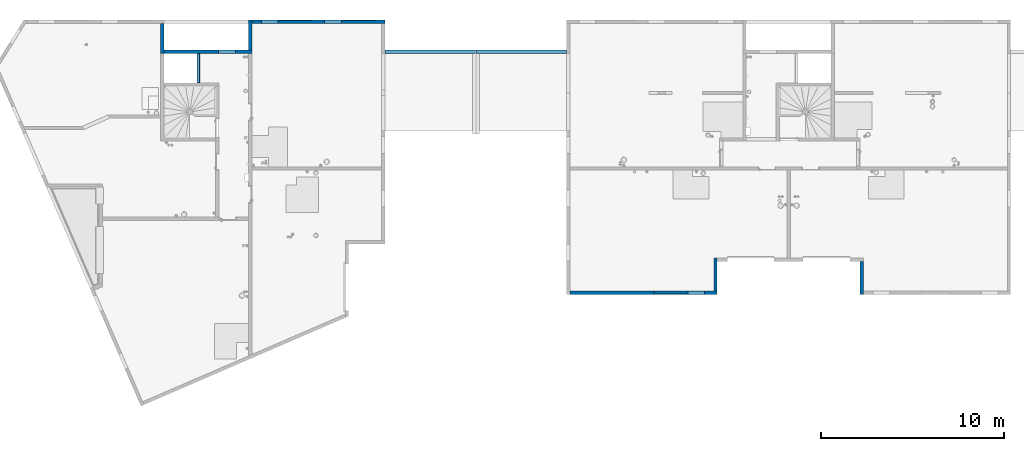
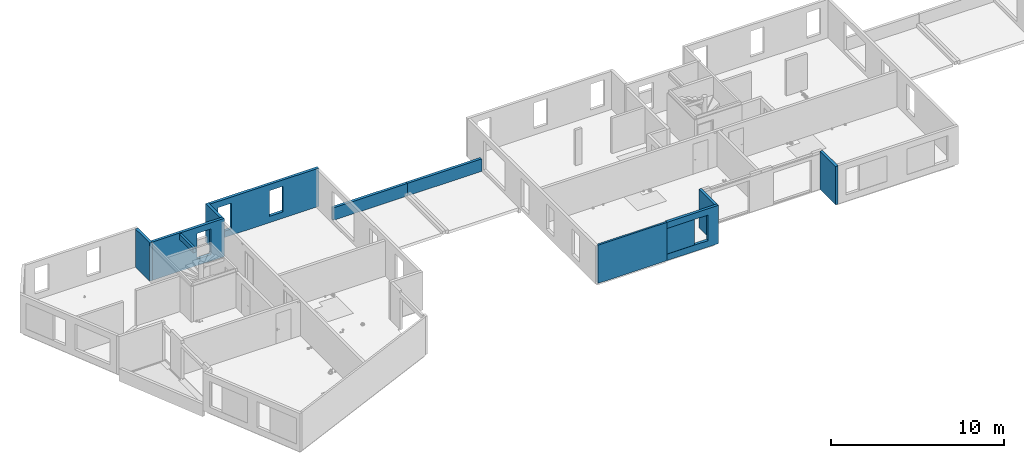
# One storey, part 6 of 24: 11 walls, 12 openings.
"""IFC2X3 building model written with IfcOpenShell, lengths in centimetres."""

from ifc_helpers import new_model, entity, si_unit, converted_unit, derived_unit, direction, frame, frame_2d, origin, place, context, subcontext, project, spatial, polyline, rectangle, extrude, clip, bounded_halfspace, material, layer, layer_set, layer_usage, type_object, element, save


model = new_model("IFC2X3")

# Units and contexts
model_context = context("Model", 3, precision=0.001, world=origin(), true_north=direction((6.12303176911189e-17, 1.0)))
body_context = subcontext(model_context, "Body", "Model", "MODEL_VIEW")
ifc_project = project(units=[si_unit("LENGTHUNIT", "METRE", prefix="CENTI"), si_unit("AREAUNIT", "SQUARE_METRE"), si_unit("VOLUMEUNIT", "CUBIC_METRE"), converted_unit("PLANEANGLEUNIT", "DEGREE", entity("IfcRatioMeasure", 0.0174532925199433), si_unit("PLANEANGLEUNIT", "RADIAN"), dimensions=[0, 0, 0, 0, 0, 0, 0]), si_unit("MASSUNIT", "GRAM", prefix="KILO"), derived_unit("MASSDENSITYUNIT", [(si_unit("MASSUNIT", "GRAM", prefix="KILO"), 1), (si_unit("LENGTHUNIT", "METRE"), -3)]), si_unit("TIMEUNIT", "SECOND"), si_unit("FREQUENCYUNIT", "HERTZ"), si_unit("THERMODYNAMICTEMPERATUREUNIT", "DEGREE_CELSIUS"), derived_unit("THERMALTRANSMITTANCEUNIT", [(si_unit("MASSUNIT", "GRAM", prefix="KILO"), 1), (si_unit("THERMODYNAMICTEMPERATUREUNIT", "KELVIN"), -1), (si_unit("TIMEUNIT", "SECOND"), -3)]), derived_unit("VOLUMETRICFLOWRATEUNIT", [(si_unit("LENGTHUNIT", "METRE"), 3), (si_unit("TIMEUNIT", "SECOND"), -1)]), si_unit("ELECTRICCURRENTUNIT", "AMPERE"), si_unit("ELECTRICVOLTAGEUNIT", "VOLT"), si_unit("POWERUNIT", "WATT"), si_unit("FORCEUNIT", "NEWTON"), si_unit("ILLUMINANCEUNIT", "LUX"), si_unit("LUMINOUSFLUXUNIT", "LUMEN"), si_unit("LUMINOUSINTENSITYUNIT", "CANDELA"), derived_unit("USERDEFINED", [(si_unit("MASSUNIT", "GRAM", prefix="KILO"), -1), (si_unit("LENGTHUNIT", "METRE"), -2), (si_unit("TIMEUNIT", "SECOND"), 3), (si_unit("LUMINOUSFLUXUNIT", "LUMEN"), 1)]), derived_unit("LINEARVELOCITYUNIT", [(si_unit("LENGTHUNIT", "METRE"), 1), (si_unit("TIMEUNIT", "SECOND"), -1)]), si_unit("PRESSUREUNIT", "PASCAL"), derived_unit("USERDEFINED", [(si_unit("LENGTHUNIT", "METRE"), -2), (si_unit("MASSUNIT", "GRAM", prefix="KILO"), 1), (si_unit("TIMEUNIT", "SECOND"), -2)])], contexts=[model_context])

# Site, building, storey
site_placement = place(None, origin())
site = spatial("IfcSite", under=ifc_project, at=site_placement, Name="Default", CompositionType="ELEMENT")
building_placement = place(site_placement, origin())
building = spatial("IfcBuilding", under=site, at=building_placement, Name="CAGE 03", CompositionType="ELEMENT")
storey_placement = place(building_placement, frame((0.0, 0.0, 880.0)))
storey = spatial("IfcBuildingStorey", under=building, at=storey_placement, Name="R+3", CompositionType="ELEMENT", Elevation=880.0)

# Wall
ifc_material_1 = material(Name="Béton, C25/30")
ifc_layer_1 = layer(ifc_material_1, 18.0)
ifc_layer_set_1 = layer_set([ifc_layer_1], Name="Mur de base:Voile BA 18")
ifc_layer_usage_1 = layer_usage(ifc_layer_set_1, "AXIS2", "NEGATIVE", 9.0)
wall_type_1 = type_object("IfcWallType", Name="Mur de base:Voile BA 18", PredefinedType="STANDARD", material=ifc_layer_set_1)
wall_1_placement = place(storey_placement, frame((3663.36582014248, 5275.66066607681, 0.0), z_axis=(0.0, 0.0, 1.0), x_axis=(0.0, -1.0, 0.0)))
element("IfcWallStandardCase", 1, at=wall_1_placement, inside=storey, type_object=wall_type_1, material=ifc_layer_usage_1, Name="Mur de base:Voile BA 18", ObjectType="Mur de base:Voile BA 18", context=body_context, shape_type="SweptSolid", body=[
    extrude(rectangle(XDim=165.0, YDim=18.0000000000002, at=frame_2d((82.4999999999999, 7.54951656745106e-14), x_axis=(-1.0, 0.0))), origin(), (0.0, 0.0, 1.0), 270.0),
])

# Wall, openings
ifc_layer_usage_2 = layer_usage(ifc_layer_set_1, "AXIS2", "NEGATIVE", 9.0)
wall_2_placement = place(storey_placement, frame((3672.36582014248, 5119.66066607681, 0.0)))
wall_2 = element("IfcWallStandardCase", 2, at=wall_2_placement, inside=storey, type_object=wall_type_1, material=ifc_layer_usage_2, Name="Mur de base:Voile BA 18", ObjectType="Mur de base:Voile BA 18", context=body_context, shape_type="SweptSolid", body=[
    extrude(rectangle(XDim=479.999999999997, YDim=17.9999999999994, at=frame_2d((239.999999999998, 1.87405646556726e-13), x_axis=(-1.0, 0.0))), origin(), (0.0, 0.0, 1.0), 270.0),
])
opening_1_placement = place(wall_2_placement, origin())
element("IfcOpeningElement", 3, at=opening_1_placement, cuts=wall_2, Name="Mur de base:Voile BA 18", ObjectType="Opening", context=body_context, shape_type="SweptSolid", body=[
    extrude(rectangle(XDim=227.0, YDim=17.9999999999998, at=frame_2d((2.16715534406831e-13, 4.9737991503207e-14), x_axis=(0.0, 1.0))), frame((189.0, -169.0, 113.5), z_axis=(0.0, 1.0, 0.0), x_axis=(1.0, 0.0, 0.0)), (0.0, 0.0, 1.0), 160.0),
])
opening_2_placement = place(wall_2_placement, frame((-3672.36582014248, -5119.66066607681, 0.0)))
element("IfcOpeningElement", 4, at=opening_2_placement, cuts=wall_2, Name="Mur de base:Voile BA 18", ObjectType="Opening", context=body_context, shape_type="SweptSolid", body=[
    extrude(rectangle(XDim=181.0, YDim=95.0000000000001, at=frame_2d((0.0, -4.33431068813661e-13), x_axis=(1.0, 0.0))), frame((4016.86582014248, 4958.26066607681, 135.5), z_axis=(0.0, 1.0, 0.0), x_axis=(0.0, 0.0, 1.0)), (0.0, 0.0, 1.0), 304.8),
])

# Walls
ifc_layer_usage_3 = layer_usage(ifc_layer_set_1, "AXIS2", "POSITIVE", -9.0)
wall_3_placement = place(storey_placement, frame((4143.36582014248, 5293.66066607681, 0.0), z_axis=(0.0, 0.0, 1.0), x_axis=(0.0, -1.0, 0.0)))
element("IfcWallStandardCase", 5, at=wall_3_placement, inside=storey, type_object=wall_type_1, material=ifc_layer_usage_3, Name="Mur de base:Voile BA 18", ObjectType="Mur de base:Voile BA 18", context=body_context, shape_type="SweptSolid", body=[
    extrude(rectangle(XDim=165.000000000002, YDim=17.9999999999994, at=frame_2d((82.5000000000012, -9.76996261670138e-15), x_axis=(-1.0, 0.0))), origin(), (0.0, 0.0, 1.0), 270.0),
])
ifc_layer_usage_4 = layer_usage(ifc_layer_set_1, "AXIS2", "POSITIVE", -9.0)
wall_4_placement = place(storey_placement, frame((6682.36582014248, 3814.6606660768, 0.0), z_axis=(0.0, 0.0, 1.0), x_axis=(0.0, 1.0, 0.0)))
element("IfcWallStandardCase", 6, at=wall_4_placement, inside=storey, type_object=wall_type_1, material=ifc_layer_usage_4, Name="Mur de base:Voile BA 18", ObjectType="Mur de base:Voile BA 18", context=body_context, shape_type="SweptSolid", body=[
    extrude(rectangle(XDim=179.999999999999, YDim=17.9999999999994, at=frame_2d((89.9999999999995, -1.4299672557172e-13), x_axis=(-1.0, 0.0))), origin(), (0.0, 0.0, 1.0), 270.0),
])
ifc_layer_usage_5 = layer_usage(ifc_layer_set_1, "AXIS2", "POSITIVE", -9.0)
wall_5_placement = place(storey_placement, frame((7480.36582014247, 3976.6606660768, 0.0), z_axis=(0.0, 0.0, 1.0), x_axis=(0.0, -1.0, 0.0)))
element("IfcWallStandardCase", 7, at=wall_5_placement, inside=storey, type_object=wall_type_1, material=ifc_layer_usage_5, Name="Mur de base:Voile BA 18", ObjectType="Mur de base:Voile BA 18", context=body_context, shape_type="SweptSolid", body=[
    extrude(rectangle(XDim=179.999999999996, YDim=17.9999999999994, at=frame_2d((89.9999999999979, -7.19424519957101e-14), x_axis=(-1.0, 0.0))), origin(), (0.0, 0.0, 1.0), 270.0),
])
ifc_layer_usage_6 = layer_usage(ifc_layer_set_1, "AXIS2", "POSITIVE", -9.0)
wall_6_placement = place(storey_placement, frame((5870.36582014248, 5119.66066607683, 0.0), z_axis=(0.0, 0.0, 1.0), x_axis=(-1.0, 0.0, 0.0)))
element("IfcWallStandardCase", 8, at=wall_6_placement, inside=storey, type_object=wall_type_1, material=ifc_layer_usage_6, Name="Mur de base:Voile BA 18", ObjectType="Mur de base:Voile BA 18", context=body_context, shape_type="SweptSolid", body=[
    extrude(rectangle(XDim=494.999999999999, YDim=17.9999999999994, at=frame_2d((247.5, -7.01660951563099e-14), x_axis=(-1.0, 0.0))), origin(), (0.0, 0.0, 1.0), 87.9999999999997),
])

# Wall, openings
ifc_layer_usage_7 = layer_usage(ifc_layer_set_1, "AXIS2", "POSITIVE", -9.0)
wall_7_placement = place(storey_placement, frame((4878.36582014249, 5284.66066607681, 0.0), z_axis=(0.0, 0.0, 1.0), x_axis=(-1.0, 0.0, 0.0)))
wall_7 = element("IfcWallStandardCase", 9, at=wall_7_placement, inside=storey, type_object=wall_type_1, material=ifc_layer_usage_7, Name="Mur de base:Voile BA 18", ObjectType="Mur de base:Voile BA 18", context=body_context, shape_type="SweptSolid", body=[
    extrude(rectangle(XDim=726.000000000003, YDim=17.9999999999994, at=frame_2d((363.000000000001, -2.1582735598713e-13), x_axis=(-1.0, 0.0))), origin(), (0.0, 0.0, 1.0), 270.0),
])
opening_3_placement = place(wall_7_placement, origin())
element("IfcOpeningElement", 10, at=opening_3_placement, cuts=wall_7, Name="Mur de base:Voile BA 18", ObjectType="Recess", context=body_context, shape_type="SweptSolid", body=[
    extrude(rectangle(XDim=181.0, YDim=184.0, at=frame_2d((0.0, -5.6843418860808e-14), x_axis=(0.0, 1.0))), frame((491.0, -9.0, 135.5), z_axis=(0.0, 1.0, 0.0), x_axis=(1.0, 0.0, 0.0)), (0.0, 0.0, 1.0), 1.99999999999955),
])
opening_4_placement = place(wall_7_placement, origin())
element("IfcOpeningElement", 11, at=opening_4_placement, cuts=wall_7, Name="Mur de base:Voile BA 18", ObjectType="Recess", context=body_context, shape_type="SweptSolid", body=[
    extrude(rectangle(XDim=181.0, YDim=184.0, at=frame_2d((0.0, -5.6843418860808e-14), x_axis=(0.0, 1.0))), frame((146.0, -9.0, 135.499999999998), z_axis=(0.0, 1.0, 0.0), x_axis=(1.0, 0.0, 0.0)), (0.0, 0.0, 1.0), 1.99999999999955),
])
opening_5_placement = place(wall_7_placement, frame((4878.36582014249, 5284.66066607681, 0.0), z_axis=(0.0, 0.0, 1.0), x_axis=(-1.0, 0.0, 0.0)))
element("IfcOpeningElement", 12, at=opening_5_placement, cuts=wall_7, Name="Mur de base:Voile BA 18", ObjectType="Opening", context=body_context, shape_type="SweptSolid", body=[
    extrude(rectangle(XDim=181.0, YDim=91.0000000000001, at=frame_2d((0.0, 0.0), x_axis=(0.0, 1.0))), frame((4249.86582014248, 5428.06066607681, 135.5), z_axis=(0.0, -1.0, 0.0), x_axis=(1.0, 0.0, 0.0)), (0.0, 0.0, 1.0), 304.8),
])
opening_6_placement = place(wall_7_placement, frame((4878.36582014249, 5284.66066607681, 0.0), z_axis=(0.0, 0.0, 1.0), x_axis=(-1.0, 0.0, 0.0)))
element("IfcOpeningElement", 13, at=opening_6_placement, cuts=wall_7, Name="Mur de base:Voile BA 18", ObjectType="Opening", context=body_context, shape_type="SweptSolid", body=[
    extrude(rectangle(XDim=181.0, YDim=91.0000000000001, at=frame_2d((0.0, 0.0), x_axis=(0.0, 1.0))), frame((4594.86582014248, 5428.06066607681, 135.5), z_axis=(0.0, -1.0, 0.0), x_axis=(1.0, 0.0, 0.0)), (0.0, 0.0, 1.0), 304.8),
])

# Wall, opening
ifc_layer_usage_8 = layer_usage(ifc_layer_set_1, "AXIS2", "POSITIVE", -9.0)
wall_8_placement = place(storey_placement, frame((3861.36582014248, 5110.66066607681, 227.0), z_axis=(0.0, 0.0, 1.0), x_axis=(0.0, -1.0, 0.0)))
wall_8 = element("IfcWallStandardCase", 14, at=wall_8_placement, inside=storey, type_object=wall_type_1, material=ifc_layer_usage_8, Name="Mur de base:Voile BA 18", ObjectType="Mur de base:Voile BA 18", context=body_context, shape_type="Clipping", body=[
    clip(clip(extrude(rectangle(XDim=159.999999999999, YDim=18.0000000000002, at=frame_2d((79.9999999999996, -8.08242361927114e-14), x_axis=(-1.0, 0.0))), origin(), (0.0, 0.0, 1.0), 36.0), bounded_halfspace(frame((0.0, 6.0, 23.0), z_axis=(0.0, 0.0, -1.0), x_axis=(1.0, 0.0, 0.0)), True, frame((0.0, 6.0, 23.0), z_axis=(0.0, 0.0, -1.0), x_axis=(1.0, 0.0, 0.0)), polyline([(0.0, 0.0), (0.0, -3.0), (160.0, -3.0), (160.0, 0.0), (0.0, 0.0)]))), bounded_halfspace(frame((160.0, 6.0, 23.0), z_axis=(0.0, -1.0, 0.0), x_axis=(0.0, 0.0, 1.0)), True, frame((160.0, 6.0, 23.0), z_axis=(0.0, -1.0, 0.0), x_axis=(0.0, 0.0, 1.0)), polyline([(0.0, 0.0), (13.0, 0.0), (13.0, 160.0), (0.0, 160.0), (0.0, 0.0)]))),
])
opening_7_placement = place(wall_8_placement, frame((5110.66066607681, -3861.36582014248, -227.0), z_axis=(0.0, 0.0, 1.0), x_axis=(0.0, 1.0, 0.0)))
element("IfcOpeningElement", 15, at=opening_7_placement, cuts=wall_8, Name="Mur de base:Voile BA 18", ObjectType="Opening", context=body_context, shape_type="SweptSolid", body=[
    extrude(rectangle(XDim=227.0, YDim=160.0, at=frame_2d((0.0, 1.63424829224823e-13), x_axis=(0.0, 1.0))), frame((3717.96582014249, 5030.66066607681, 113.5), z_axis=(1.0, 0.0, 0.0), x_axis=(0.0, 1.0, 0.0)), (0.0, 0.0, 1.0), 304.8),
])

# Wall
ifc_layer_usage_9 = layer_usage(ifc_layer_set_1, "AXIS2", "POSITIVE", -9.0)
wall_9_placement = place(storey_placement, frame((5373.36582014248, 5119.66066607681, 0.0), z_axis=(0.0, 0.0, 1.0), x_axis=(-1.0, 0.0, 0.0)))
element("IfcWallStandardCase", 16, at=wall_9_placement, inside=storey, type_object=wall_type_1, material=ifc_layer_usage_9, Name="Mur de base:Voile BA 18", ObjectType="Mur de base:Voile BA 18", context=body_context, shape_type="SweptSolid", body=[
    extrude(rectangle(XDim=494.999999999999, YDim=17.9999999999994, at=frame_2d((247.5, -3.01980662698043e-14), x_axis=(-1.0, 0.0))), origin(), (0.0, 0.0, 1.0), 87.9999999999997),
])

# Wall, openings
ifc_layer_usage_10 = layer_usage(ifc_layer_set_1, "AXIS2", "POSITIVE", -9.0)
wall_10_placement = place(storey_placement, frame((6347.36582014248, 3805.6606660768, 0.0)))
wall_10 = element("IfcWallStandardCase", 17, at=wall_10_placement, inside=storey, type_object=wall_type_1, material=ifc_layer_usage_10, Name="Mur de base:Voile BA 18", ObjectType="Mur de base:Voile BA 18", context=body_context, shape_type="SweptSolid", body=[
    extrude(rectangle(XDim=344.0, YDim=18.0000000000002, at=frame_2d((172.0, -1.04805053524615e-13), x_axis=(-1.0, 0.0))), origin(), (0.0, 0.0, 1.0), 270.0),
])
opening_8_placement = place(wall_10_placement, origin())
element("IfcOpeningElement", 18, at=opening_8_placement, cuts=wall_10, Name="Mur de base:Voile BA 18", ObjectType="Recess", context=body_context, shape_type="SweptSolid", body=[
    extrude(rectangle(XDim=181.0, YDim=184.0, at=frame_2d((-1.06581410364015e-13, 0.0), x_axis=(1.0, 0.0))), frame((92.0, -9.0, 135.5), z_axis=(0.0, 1.0, 0.0), x_axis=(0.0, 0.0, -1.0)), (0.0, 0.0, 1.0), 1.99999999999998),
])
opening_9_placement = place(wall_10_placement, origin())
element("IfcOpeningElement", 19, at=opening_9_placement, cuts=wall_10, Name="Mur de base:Voile BA 18", ObjectType="Recess", context=body_context, shape_type="SweptSolid", body=[
    extrude(rectangle(XDim=181.0, YDim=184.0, at=frame_2d((-1.06581410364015e-13, 0.0), x_axis=(1.0, 0.0))), frame((1376.0, -9.0, 135.5), z_axis=(0.0, 1.0, 0.0), x_axis=(0.0, 0.0, -1.0)), (0.0, 0.0, 1.0), 1.99999999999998),
])
opening_10_placement = place(wall_10_placement, origin())
element("IfcOpeningElement", 20, at=opening_10_placement, cuts=wall_10, Name="Mur de base:Voile BA 18", ObjectType="Recess", context=body_context, shape_type="SweptSolid", body=[
    extrude(rectangle(XDim=181.0, YDim=184.0, at=frame_2d((-1.06581410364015e-13, 0.0), x_axis=(1.0, 0.0))), frame((1693.0, -9.0, 135.5), z_axis=(0.0, 1.0, 0.0), x_axis=(0.0, 0.0, -1.0)), (0.0, 0.0, 1.0), 1.99999999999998),
])
opening_11_placement = place(wall_10_placement, frame((-6347.36582014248, -3805.6606660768, 0.0)))
element("IfcOpeningElement", 21, at=opening_11_placement, cuts=wall_10, Name="Mur de base:Voile BA 18", ObjectType="Opening", context=body_context, shape_type="SweptSolid", body=[
    extrude(rectangle(XDim=181.0, YDim=91.0000000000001, at=frame_2d((0.0, 0.0), x_axis=(0.0, 1.0))), frame((6576.86582014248, 3644.2606660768, 135.5), z_axis=(0.0, 1.0, 0.0), x_axis=(-1.0, 0.0, 0.0)), (0.0, 0.0, 1.0), 304.8),
])

# Wall, opening
ifc_material_2 = material(Name="Béton, panneaux préfa 30/37")
ifc_layer_2 = layer(ifc_material_2, 5.5)
ifc_layer_3 = layer(ifc_material_1, 7.0)
ifc_layer_4 = layer(ifc_material_2, 5.5)
ifc_layer_set_2 = layer_set([ifc_layer_2, ifc_layer_3, ifc_layer_4], Name="Mur de base:premur 18")
ifc_layer_usage_11 = layer_usage(ifc_layer_set_2, "AXIS2", "POSITIVE", -9.0)
wall_type_2 = type_object("IfcWallType", Name="Mur de base:premur 18", PredefinedType="NOTDEFINED")
wall_11_placement = place(storey_placement, frame((5888.36582014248, 3805.66066607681, 0.0)))
wall_11 = element("IfcWallStandardCase", 22, at=wall_11_placement, inside=storey, type_object=wall_type_2, material=ifc_layer_usage_11, Name="Mur de base:premur 18", ObjectType="Mur de base:premur 18", context=body_context, shape_type="Clipping", body=[
    clip(clip(extrude(rectangle(XDim=459.000000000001, YDim=18.0000000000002, at=frame_2d((229.500000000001, 7.72715225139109e-14), x_axis=(-1.0, 0.0))), origin(), (0.0, 0.0, 1.0), 270.0), bounded_halfspace(frame((0.0, 3.50000000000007, 250.0), z_axis=(0.0, 0.0, -1.0), x_axis=(-1.0, 0.0, 0.0)), True, frame((0.0, 3.50000000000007, 250.0), z_axis=(0.0, 0.0, -1.0), x_axis=(-1.0, 0.0, 0.0)), polyline([(0.0, 0.0), (0.0, 5.50000000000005), (-459.0, 5.49999999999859), (-459.0, 0.0), (0.0, 0.0)]))), bounded_halfspace(frame((459.0, 3.50000000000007, 250.0), z_axis=(0.0, -1.0, 0.0), x_axis=(0.0, 0.0, 1.0)), True, frame((459.0, 3.50000000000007, 250.0), z_axis=(0.0, -1.0, 0.0), x_axis=(0.0, 0.0, 1.0)), polyline([(0.0, 0.0), (20.0, 0.0), (20.0, 459.0), (0.0, 459.0), (0.0, 0.0)]))),
])
opening_12_placement = place(wall_11_placement, origin())
element("IfcOpeningElement", 23, at=opening_12_placement, cuts=wall_11, Name="Mur de base:premur 18", ObjectType="Recess", context=body_context, shape_type="SweptSolid", body=[
    extrude(rectangle(XDim=181.0, YDim=184.0, at=frame_2d((-1.06581410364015e-13, 0.0), x_axis=(1.0, 0.0))), frame((551.0, -9.0, 135.5), z_axis=(0.0, 1.0, 0.0), x_axis=(0.0, 0.0, -1.0)), (0.0, 0.0, 1.0), 1.99999999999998),
])

save(model, "model.ifc")
